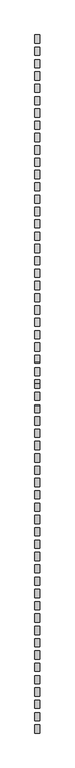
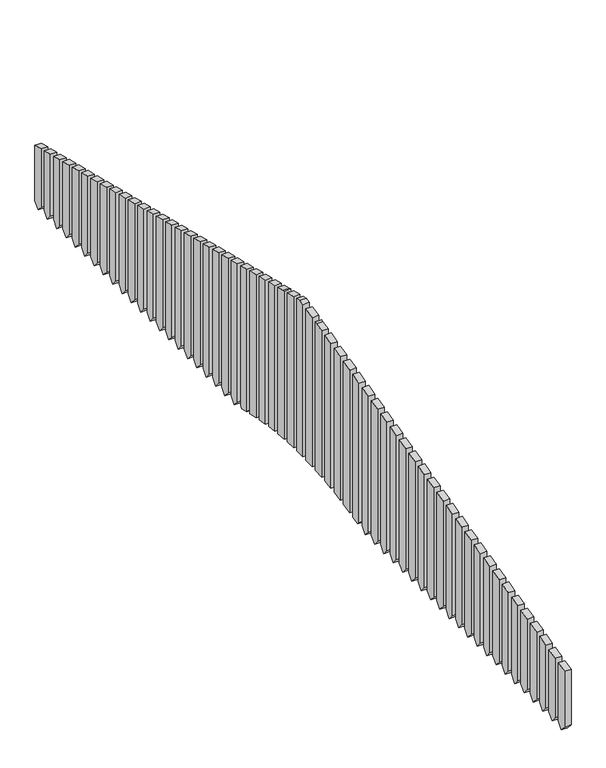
"""IFC4 building model written with IfcOpenShell, lengths in millimetres: proxy geometry, Modelos genéricos 225 : Modelos genéricos 225."""

from ifc_helpers import new_model, si_unit, point, frame, frame_2d, origin, place, context, project, spatial, polyline, circle_curve, trimmed, segment, composite_curve, outline, extrude, source, transform, mapped, element, save


def generic_models_3d0c03d0(model_context):
    return source(origin(), model_context, "Body", "SweptSolid", [
        extrude(outline(polyline([(6203.6238165, 3414.9077508), (6203.6238165, 2870.0), (6153.6238165, 2811.0), (6103.6238165, 2870.0), (6103.6238165, 3439.8405511), (6203.6238165, 3414.9077508)])), frame((-12856.5527533, 0.0, 0.0), z_axis=(1.0, 0.0, 0.0), x_axis=(0.0, 1.0, 0.0)), (0.0, 0.0, 1.0), 60.0),
        extrude(outline(polyline([(6053.6238165, 3452.3069512), (6053.6238165, 2870.0), (6003.6238165, 2811.0), (5953.6238165, 2870.0), (5953.6238165, 3477.2397515), (6053.6238165, 3452.3069512)])), frame((-12856.5527533, 0.0, 0.0), z_axis=(1.0, 0.0, 0.0), x_axis=(0.0, 1.0, 0.0)), (0.0, 0.0, 1.0), 60.0),
        extrude(outline(polyline([(5903.6238165, 3489.7061516), (5903.6238165, 2870.0), (5853.6238165, 2811.0), (5803.6238165, 2870.0), (5803.6238165, 3514.6389519), (5903.6238165, 3489.7061516)])), frame((-12856.5527533, 0.0, 0.0), z_axis=(1.0, 0.0, 0.0), x_axis=(0.0, 1.0, 0.0)), (0.0, 0.0, 1.0), 60.0),
        extrude(outline(polyline([(5753.6238165, 3527.1053521), (5753.6238165, 2870.0), (5703.6238165, 2811.0), (5653.6238165, 2870.0), (5653.6238165, 3552.0381524), (5753.6238165, 3527.1053521)])), frame((-12856.5527533, 0.0, 0.0), z_axis=(1.0, 0.0, 0.0), x_axis=(0.0, 1.0, 0.0)), (0.0, 0.0, 1.0), 60.0),
        extrude(outline(polyline([(5603.6238165, 3564.5045525), (5603.6238165, 2870.0), (5553.6238165, 2811.0), (5503.6238165, 2870.0), (5503.6238165, 3589.4373528), (5603.6238165, 3564.5045525)])), frame((-12856.5527533, 0.0, 0.0), z_axis=(1.0, 0.0, 0.0), x_axis=(0.0, 1.0, 0.0)), (0.0, 0.0, 1.0), 60.0),
        extrude(outline(polyline([(5453.6238165, 3601.9037529), (5453.6238165, 2870.0), (5403.6238165, 2811.0), (5353.6238165, 2870.0), (5353.6238165, 3626.8365532), (5453.6238165, 3601.9037529)])), frame((-12856.5527533, 0.0, 0.0), z_axis=(1.0, 0.0, 0.0), x_axis=(0.0, 1.0, 0.0)), (0.0, 0.0, 1.0), 60.0),
        extrude(outline(polyline([(5303.6238165, 3639.3029533), (5303.6238165, 2870.0), (5253.6238165, 2811.0), (5203.6238165, 2870.0), (5203.6238165, 3664.2357536), (5303.6238165, 3639.3029533)])), frame((-12856.5527533, 0.0, 0.0), z_axis=(1.0, 0.0, 0.0), x_axis=(0.0, 1.0, 0.0)), (0.0, 0.0, 1.0), 60.0),
        extrude(outline(polyline([(5153.6238165, 3676.7021538), (5153.6238165, 2870.0), (5103.6238165, 2811.0), (5053.6238165, 2870.0), (5053.6238165, 3701.6349541), (5153.6238165, 3676.7021538)])), frame((-12856.5527533, 0.0, 0.0), z_axis=(1.0, 0.0, 0.0), x_axis=(0.0, 1.0, 0.0)), (0.0, 0.0, 1.0), 60.0),
        extrude(outline(polyline([(5003.6238165, 3714.1013542), (5003.6238165, 2870.0), (4953.6238165, 2811.0), (4903.6238165, 2870.0), (4903.6238165, 3739.0341545), (5003.6238165, 3714.1013542)])), frame((-12856.5527533, 0.0, 0.0), z_axis=(1.0, 0.0, 0.0), x_axis=(0.0, 1.0, 0.0)), (0.0, 0.0, 1.0), 60.0),
        extrude(outline(polyline([(4853.6238165, 3751.5005546), (4853.6238165, 2870.0), (4803.6238165, 2811.0), (4753.6238165, 2870.0), (4753.6238165, 3776.4333549), (4853.6238165, 3751.5005546)])), frame((-12856.5527533, 0.0, 0.0), z_axis=(1.0, 0.0, 0.0), x_axis=(0.0, 1.0, 0.0)), (0.0, 0.0, 1.0), 60.0),
        extrude(outline(polyline([(4703.6238165, 3788.8997551), (4703.6238165, 2870.0), (4653.6238165, 2811.0), (4603.6238165, 2870.0), (4603.6238165, 3813.8325553), (4703.6238165, 3788.8997551)])), frame((-12856.5527533, 0.0, 0.0), z_axis=(1.0, 0.0, 0.0), x_axis=(0.0, 1.0, 0.0)), (0.0, 0.0, 1.0), 60.0),
        extrude(outline(polyline([(4553.6238165, 3826.2989555), (4553.6238165, 2870.0), (4503.6238165, 2811.0), (4453.6238165, 2870.0), (4453.6238165, 3851.2317558), (4553.6238165, 3826.2989555)])), frame((-12856.5527533, 0.0, 0.0), z_axis=(1.0, 0.0, 0.0), x_axis=(0.0, 1.0, 0.0)), (0.0, 0.0, 1.0), 60.0),
        extrude(outline(polyline([(4403.6238165, 3863.6981559), (4403.6238165, 2870.0), (4353.6238165, 2811.0), (4303.6238165, 2870.0), (4303.6238165, 3888.6309562), (4403.6238165, 3863.6981559)])), frame((-12856.5527533, 0.0, 0.0), z_axis=(1.0, 0.0, 0.0), x_axis=(0.0, 1.0, 0.0)), (0.0, 0.0, 1.0), 60.0),
        extrude(outline(polyline([(4253.6238165, 3901.0973563), (4253.6238165, 2870.0), (4203.6238165, 2811.0), (4153.6238165, 2870.0), (4153.6238165, 3926.0301566), (4253.6238165, 3901.0973563)])), frame((-12856.5527533, 0.0, 0.0), z_axis=(1.0, 0.0, 0.0), x_axis=(0.0, 1.0, 0.0)), (0.0, 0.0, 1.0), 60.0),
        extrude(outline(polyline([(4103.6238165, 3938.4965568), (4103.6238165, 2870.0), (4053.6238165, 2811.0), (4003.6238165, 2870.0), (4003.6238165, 3963.429357), (4103.6238165, 3938.4965568)])), frame((-12856.5527533, 0.0, 0.0), z_axis=(1.0, 0.0, 0.0), x_axis=(0.0, 1.0, 0.0)), (0.0, 0.0, 1.0), 60.0),
        extrude(outline(polyline([(3953.6238165, 3975.8957572), (3953.6238165, 2870.0), (3903.6238165, 2811.0), (3853.6238165, 2870.0), (3853.6238165, 4000.8285575), (3953.6238165, 3975.8957572)])), frame((-12856.5527533, 0.0, 0.0), z_axis=(1.0, 0.0, 0.0), x_axis=(0.0, 1.0, 0.0)), (0.0, 0.0, 1.0), 60.0),
        extrude(outline(polyline([(3803.6238165, 4013.2949576), (3803.6238165, 2870.0), (3753.6238165, 2811.0), (3703.6238165, 2870.0), (3703.6238165, 4038.2277579), (3803.6238165, 4013.2949576)])), frame((-12856.5527533, 0.0, 0.0), z_axis=(1.0, 0.0, 0.0), x_axis=(0.0, 1.0, 0.0)), (0.0, 0.0, 1.0), 60.0),
        extrude(outline(polyline([(3653.6238165, 4050.694158), (3653.6238165, 2870.0), (3603.6238165, 2811.0), (3553.6238165, 2870.0), (3553.6238165, 4075.6269583), (3653.6238165, 4050.694158)])), frame((-12856.5527533, 0.0, 0.0), z_axis=(1.0, 0.0, 0.0), x_axis=(0.0, 1.0, 0.0)), (0.0, 0.0, 1.0), 60.0),
        extrude(outline(polyline([(3503.6238165, 4088.0933585), (3503.6238165, 2870.0), (3453.6238165, 2811.0), (3403.6238165, 2870.0), (3403.6238165, 4113.0261587), (3503.6238165, 4088.0933585)])), frame((-12856.5527533, 0.0, 0.0), z_axis=(1.0, 0.0, 0.0), x_axis=(0.0, 1.0, 0.0)), (0.0, 0.0, 1.0), 60.0),
        extrude(outline(polyline([(3353.6238165, 4125.4925589), (3353.6238165, 2870.0), (3303.6238165, 2811.0), (3253.6238165, 2870.0), (3253.6238165, 4150.4253592), (3353.6238165, 4125.4925589)])), frame((-12856.5527533, 0.0, 0.0), z_axis=(1.0, 0.0, 0.0), x_axis=(0.0, 1.0, 0.0)), (0.0, 0.0, 1.0), 60.0),
        extrude(outline(polyline([(3203.6238165, 4162.8917593), (3203.6238165, 2870.0), (3153.6238165, 2811.0), (3103.6238165, 2870.0), (3103.6238165, 4187.8245596), (3203.6238165, 4162.8917593)])), frame((-12856.5527533, 0.0, 0.0), z_axis=(1.0, 0.0, 0.0), x_axis=(0.0, 1.0, 0.0)), (0.0, 0.0, 1.0), 60.0),
        extrude(outline(polyline([(3053.6238165, 4200.2909597), (3053.6238165, 2870.0), (3003.6238165, 2811.0), (2953.6238165, 2870.0), (2953.6238165, 4225.22376), (3053.6238165, 4200.2909597)])), frame((-12856.5527533, 0.0, 0.0), z_axis=(1.0, 0.0, 0.0), x_axis=(0.0, 1.0, 0.0)), (0.0, 0.0, 1.0), 60.0),
        extrude(outline(composite_curve([segment(polyline([(2903.6238165, 4237.6901602), (2903.6238165, 2870.0), (2883.2729291, 2845.9859529)]), True, "CONTINUOUS"), segment(trimmed(circle_curve(frame_2d((1953.6238165, -576.4811321)), 3546.4811321), [point((2883.2729291, 2845.9859529))], [point((2807.2352676, 2865.7384877))], True, "CARTESIAN"), True, "CONTINUOUS"), segment(polyline([(2807.2352676, 2865.7384877), (2803.6238165, 2870.0), (2803.6238165, 4262.6229605), (2903.6238165, 4237.6901602)]), True, "CONTINUOUS")], self_intersect=False)), frame((-12856.5527533, 0.0, 0.0), z_axis=(1.0, 0.0, 0.0), x_axis=(0.0, 1.0, 0.0)), (0.0, 0.0, 1.0), 60.0),
        extrude(outline(composite_curve([segment(polyline([(2753.6238165, 4275.0893606), (2753.6238165, 2878.591721)]), True, "CONTINUOUS"), segment(trimmed(circle_curve(frame_2d((1953.6238165, -576.4811321)), 3546.4811321), [point((2753.6238165, 2878.591721))], [point((2653.6238165, 2900.2311684))], True, "CARTESIAN"), True, "CONTINUOUS"), segment(polyline([(2653.6238165, 2900.2311684), (2653.6238165, 4300.0221609), (2753.6238165, 4275.0893606)]), True, "CONTINUOUS")], self_intersect=False)), frame((-12856.5527533, 0.0, 0.0), z_axis=(1.0, 0.0, 0.0), x_axis=(0.0, 1.0, 0.0)), (0.0, 0.0, 1.0), 60.0),
        extrude(outline(composite_curve([segment(polyline([(2603.6238165, 4312.488561), (2603.6238165, 2909.9251007)]), True, "CONTINUOUS"), segment(trimmed(circle_curve(frame_2d((1953.6238165, -576.4811321)), 3546.4811321), [point((2603.6238165, 2909.9251007))], [point((2503.6238165, 2927.0925321))], True, "CARTESIAN"), True, "CONTINUOUS"), segment(polyline([(2503.6238165, 2927.0925321), (2503.6238165, 4337.4213613), (2603.6238165, 4312.488561)]), True, "CONTINUOUS")], self_intersect=False)), frame((-12856.5527533, 0.0, 0.0), z_axis=(1.0, 0.0, 0.0), x_axis=(0.0, 1.0, 0.0)), (0.0, 0.0, 1.0), 60.0),
        extrude(outline(composite_curve([segment(polyline([(2453.6238165, 4349.8877615), (2453.6238165, 2934.576888)]), True, "CONTINUOUS"), segment(trimmed(circle_curve(frame_2d((1953.6238165, -576.4811321)), 3546.4811321), [point((2453.6238165, 2934.576888))], [point((2353.6238165, 2947.3702297))], True, "CARTESIAN"), True, "CONTINUOUS"), segment(polyline([(2353.6238165, 2947.3702297), (2353.6238165, 4374.8205617), (2453.6238165, 4349.8877615)]), True, "CONTINUOUS")], self_intersect=False)), frame((-12856.5527533, 0.0, 0.0), z_axis=(1.0, 0.0, 0.0), x_axis=(0.0, 1.0, 0.0)), (0.0, 0.0, 1.0), 60.0),
        extrude(outline(composite_curve([segment(polyline([(2303.6238165, 4387.2869619), (2303.6238165, 2952.6871014)]), True, "CONTINUOUS"), segment(trimmed(circle_curve(frame_2d((1953.6238165, -576.4811321)), 3546.4811321), [point((2303.6238165, 2952.6871014))], [point((2203.6238165, 2961.177475))], True, "CARTESIAN"), True, "CONTINUOUS"), segment(polyline([(2203.6238165, 2961.177475), (2203.6238165, 4412.2197622), (2222.9004531, 4407.4135568), (2303.6238165, 4387.2869619)]), True, "CONTINUOUS")], self_intersect=False)), frame((-12856.5527533, 0.0, 0.0), z_axis=(1.0, 0.0, 0.0), x_axis=(0.0, 1.0, 0.0)), (0.0, 0.0, 1.0), 60.0),
        extrude(outline(composite_curve([segment(polyline([(2153.6238165, 4424.6861623), (2153.6238165, 2964.3561164)]), True, "CONTINUOUS"), segment(trimmed(circle_curve(frame_2d((1953.6238165, -576.4811321)), 3546.4811321), [point((2153.6238165, 2964.3561164))], [point((2053.6238165, 2968.5898715))], True, "CARTESIAN"), True, "CONTINUOUS"), segment(polyline([(2053.6238165, 2968.5898715), (2053.6238165, 4449.6189626), (2153.6238165, 4424.6861623)]), True, "CONTINUOUS")], self_intersect=False)), frame((-12856.5527533, 0.0, 0.0), z_axis=(1.0, 0.0, 0.0), x_axis=(0.0, 1.0, 0.0)), (0.0, 0.0, 1.0), 60.0),
        extrude(outline(composite_curve([segment(polyline([(1903.6238165, 2969.6475204), (1903.6238165, 4462.0853627), (1953.6238165, 4474.5517629), (2003.6238165, 4462.0853627), (2003.6238165, 2969.6475204)]), True, "CONTINUOUS"), segment(trimmed(circle_curve(frame_2d((1953.6238165, -576.4811321)), 3546.4811321), [point((2003.6238165, 2969.6475204))], [point((1903.6238165, 2969.6475204))], True, "CARTESIAN"), True, "CONTINUOUS")], self_intersect=False)), frame((-12856.5527533, 0.0, 0.0), z_axis=(1.0, 0.0, 0.0), x_axis=(0.0, 1.0, 0.0)), (0.0, 0.0, 1.0), 60.0),
        extrude(outline(polyline([(-2296.3761835, 3414.9077508), (-2196.3761835, 3439.8405511), (-2196.3761835, 2870.0), (-2246.3761835, 2811.0), (-2296.3761835, 2870.0), (-2296.3761835, 3414.9077508)])), frame((-12856.5527533, 0.0, 0.0), z_axis=(1.0, 0.0, 0.0), x_axis=(0.0, 1.0, 0.0)), (0.0, 0.0, 1.0), 60.0),
        extrude(outline(polyline([(-2146.3761835, 3452.3069512), (-2046.3761835, 3477.2397515), (-2046.3761835, 2870.0), (-2096.3761835, 2811.0), (-2146.3761835, 2870.0), (-2146.3761835, 3452.3069512)])), frame((-12856.5527533, 0.0, 0.0), z_axis=(1.0, 0.0, 0.0), x_axis=(0.0, 1.0, 0.0)), (0.0, 0.0, 1.0), 60.0),
        extrude(outline(polyline([(-1996.3761835, 3489.7061516), (-1896.3761835, 3514.6389519), (-1896.3761835, 2870.0), (-1946.3761835, 2811.0), (-1996.3761835, 2870.0), (-1996.3761835, 3489.7061516)])), frame((-12856.5527533, 0.0, 0.0), z_axis=(1.0, 0.0, 0.0), x_axis=(0.0, 1.0, 0.0)), (0.0, 0.0, 1.0), 60.0),
        extrude(outline(polyline([(-1846.3761835, 3527.1053521), (-1746.3761835, 3552.0381524), (-1746.3761835, 2870.0), (-1796.3761835, 2811.0), (-1846.3761835, 2870.0), (-1846.3761835, 3527.1053521)])), frame((-12856.5527533, 0.0, 0.0), z_axis=(1.0, 0.0, 0.0), x_axis=(0.0, 1.0, 0.0)), (0.0, 0.0, 1.0), 60.0),
        extrude(outline(polyline([(-1696.3761835, 3564.5045525), (-1596.3761835, 3589.4373528), (-1596.3761835, 2870.0), (-1646.3761835, 2811.0), (-1696.3761835, 2870.0), (-1696.3761835, 3564.5045525)])), frame((-12856.5527533, 0.0, 0.0), z_axis=(1.0, 0.0, 0.0), x_axis=(0.0, 1.0, 0.0)), (0.0, 0.0, 1.0), 60.0),
        extrude(outline(polyline([(-1546.3761835, 3601.9037529), (-1446.3761835, 3626.8365532), (-1446.3761835, 2870.0), (-1496.3761835, 2811.0), (-1546.3761835, 2870.0), (-1546.3761835, 3601.9037529)])), frame((-12856.5527533, 0.0, 0.0), z_axis=(1.0, 0.0, 0.0), x_axis=(0.0, 1.0, 0.0)), (0.0, 0.0, 1.0), 60.0),
        extrude(outline(polyline([(-1396.3761835, 3639.3029533), (-1296.3761835, 3664.2357536), (-1296.3761835, 2870.0), (-1346.3761835, 2811.0), (-1396.3761835, 2870.0), (-1396.3761835, 3639.3029533)])), frame((-12856.5527533, 0.0, 0.0), z_axis=(1.0, 0.0, 0.0), x_axis=(0.0, 1.0, 0.0)), (0.0, 0.0, 1.0), 60.0),
        extrude(outline(polyline([(-1246.3761835, 3676.7021538), (-1146.3761835, 3701.6349541), (-1146.3761835, 2870.0), (-1196.3761835, 2811.0), (-1246.3761835, 2870.0), (-1246.3761835, 3676.7021538)])), frame((-12856.5527533, 0.0, 0.0), z_axis=(1.0, 0.0, 0.0), x_axis=(0.0, 1.0, 0.0)), (0.0, 0.0, 1.0), 60.0),
        extrude(outline(polyline([(-1096.3761835, 3714.1013542), (-996.3761835, 3739.0341545), (-996.3761835, 2870.0), (-1046.3761835, 2811.0), (-1096.3761835, 2870.0), (-1096.3761835, 3714.1013542)])), frame((-12856.5527533, 0.0, 0.0), z_axis=(1.0, 0.0, 0.0), x_axis=(0.0, 1.0, 0.0)), (0.0, 0.0, 1.0), 60.0),
        extrude(outline(polyline([(-946.3761835, 3751.5005546), (-846.3761835, 3776.4333549), (-846.3761835, 2870.0), (-896.3761835, 2811.0), (-946.3761835, 2870.0), (-946.3761835, 3751.5005546)])), frame((-12856.5527533, 0.0, 0.0), z_axis=(1.0, 0.0, 0.0), x_axis=(0.0, 1.0, 0.0)), (0.0, 0.0, 1.0), 60.0),
        extrude(outline(polyline([(-796.3761835, 3788.8997551), (-696.3761835, 3813.8325553), (-696.3761835, 2870.0), (-746.3761835, 2811.0), (-796.3761835, 2870.0), (-796.3761835, 3788.8997551)])), frame((-12856.5527533, 0.0, 0.0), z_axis=(1.0, 0.0, 0.0), x_axis=(0.0, 1.0, 0.0)), (0.0, 0.0, 1.0), 60.0),
        extrude(outline(polyline([(-646.3761835, 3826.2989555), (-546.3761835, 3851.2317558), (-546.3761835, 2870.0), (-596.3761835, 2811.0), (-646.3761835, 2870.0), (-646.3761835, 3826.2989555)])), frame((-12856.5527533, 0.0, 0.0), z_axis=(1.0, 0.0, 0.0), x_axis=(0.0, 1.0, 0.0)), (0.0, 0.0, 1.0), 60.0),
        extrude(outline(polyline([(-496.3761835, 3863.6981559), (-396.3761835, 3888.6309562), (-396.3761835, 2870.0), (-446.3761835, 2811.0), (-496.3761835, 2870.0), (-496.3761835, 3863.6981559)])), frame((-12856.5527533, 0.0, 0.0), z_axis=(1.0, 0.0, 0.0), x_axis=(0.0, 1.0, 0.0)), (0.0, 0.0, 1.0), 60.0),
        extrude(outline(polyline([(-346.3761835, 3901.0973563), (-246.3761835, 3926.0301566), (-246.3761835, 2870.0), (-296.3761835, 2811.0), (-346.3761835, 2870.0), (-346.3761835, 3901.0973563)])), frame((-12856.5527533, 0.0, 0.0), z_axis=(1.0, 0.0, 0.0), x_axis=(0.0, 1.0, 0.0)), (0.0, 0.0, 1.0), 60.0),
        extrude(outline(polyline([(-196.3761835, 3938.4965568), (-96.3761835, 3963.429357), (-96.3761835, 2870.0), (-146.3761835, 2811.0), (-196.3761835, 2870.0), (-196.3761835, 3938.4965568)])), frame((-12856.5527533, 0.0, 0.0), z_axis=(1.0, 0.0, 0.0), x_axis=(0.0, 1.0, 0.0)), (0.0, 0.0, 1.0), 60.0),
        extrude(outline(polyline([(-46.3761835, 3975.8957572), (53.6238165, 4000.8285575), (53.6238165, 2870.0), (3.6238165, 2811.0), (-46.3761835, 2870.0), (-46.3761835, 3975.8957572)])), frame((-12856.5527533, 0.0, 0.0), z_axis=(1.0, 0.0, 0.0), x_axis=(0.0, 1.0, 0.0)), (0.0, 0.0, 1.0), 60.0),
        extrude(outline(polyline([(103.6238165, 4013.2949576), (203.6238165, 4038.2277579), (203.6238165, 2870.0), (153.6238165, 2811.0), (103.6238165, 2870.0), (103.6238165, 4013.2949576)])), frame((-12856.5527533, 0.0, 0.0), z_axis=(1.0, 0.0, 0.0), x_axis=(0.0, 1.0, 0.0)), (0.0, 0.0, 1.0), 60.0),
        extrude(outline(polyline([(253.6238165, 4050.694158), (353.6238165, 4075.6269583), (353.6238165, 2870.0), (303.6238165, 2811.0), (253.6238165, 2870.0), (253.6238165, 4050.694158)])), frame((-12856.5527533, 0.0, 0.0), z_axis=(1.0, 0.0, 0.0), x_axis=(0.0, 1.0, 0.0)), (0.0, 0.0, 1.0), 60.0),
        extrude(outline(polyline([(403.6238165, 4088.0933585), (503.6238165, 4113.0261587), (503.6238165, 2870.0), (453.6238165, 2811.0), (403.6238165, 2870.0), (403.6238165, 4088.0933585)])), frame((-12856.5527533, 0.0, 0.0), z_axis=(1.0, 0.0, 0.0), x_axis=(0.0, 1.0, 0.0)), (0.0, 0.0, 1.0), 60.0),
        extrude(outline(polyline([(553.6238165, 4125.4925589), (653.6238165, 4150.4253592), (653.6238165, 2870.0), (603.6238165, 2811.0), (553.6238165, 2870.0), (553.6238165, 4125.4925589)])), frame((-12856.5527533, 0.0, 0.0), z_axis=(1.0, 0.0, 0.0), x_axis=(0.0, 1.0, 0.0)), (0.0, 0.0, 1.0), 60.0),
        extrude(outline(polyline([(703.6238165, 4162.8917593), (803.6238165, 4187.8245596), (803.6238165, 2870.0), (753.6238165, 2811.0), (703.6238165, 2870.0), (703.6238165, 4162.8917593)])), frame((-12856.5527533, 0.0, 0.0), z_axis=(1.0, 0.0, 0.0), x_axis=(0.0, 1.0, 0.0)), (0.0, 0.0, 1.0), 60.0),
        extrude(outline(polyline([(853.6238165, 4200.2909597), (953.6238165, 4225.22376), (953.6238165, 2870.0), (903.6238165, 2811.0), (853.6238165, 2870.0), (853.6238165, 4200.2909597)])), frame((-12856.5527533, 0.0, 0.0), z_axis=(1.0, 0.0, 0.0), x_axis=(0.0, 1.0, 0.0)), (0.0, 0.0, 1.0), 60.0),
        extrude(outline(composite_curve([segment(polyline([(1003.6238165, 4237.6901602), (1103.6238165, 4262.6229605), (1103.6238165, 2870.0), (1100.0123654, 2865.7384877)]), True, "CONTINUOUS"), segment(trimmed(circle_curve(frame_2d((1953.6238165, -576.4811321)), 3546.4811321), [point((1100.0123654, 2865.7384877))], [point((1023.9747039, 2845.9859529))], True, "CARTESIAN"), True, "CONTINUOUS"), segment(polyline([(1023.9747039, 2845.9859529), (1003.6238165, 2870.0), (1003.6238165, 4237.6901602)]), True, "CONTINUOUS")], self_intersect=False)), frame((-12856.5527533, 0.0, 0.0), z_axis=(1.0, 0.0, 0.0), x_axis=(0.0, 1.0, 0.0)), (0.0, 0.0, 1.0), 60.0),
        extrude(outline(composite_curve([segment(polyline([(1153.6238165, 4275.0893606), (1253.6238165, 4300.0221609), (1253.6238165, 2900.2311684)]), True, "CONTINUOUS"), segment(trimmed(circle_curve(frame_2d((1953.6238165, -576.4811321)), 3546.4811321), [point((1253.6238165, 2900.2311684))], [point((1153.6238165, 2878.591721))], True, "CARTESIAN"), True, "CONTINUOUS"), segment(polyline([(1153.6238165, 2878.591721), (1153.6238165, 4275.0893606)]), True, "CONTINUOUS")], self_intersect=False)), frame((-12856.5527533, 0.0, 0.0), z_axis=(1.0, 0.0, 0.0), x_axis=(0.0, 1.0, 0.0)), (0.0, 0.0, 1.0), 60.0),
        extrude(outline(composite_curve([segment(polyline([(1303.6238165, 4312.488561), (1403.6238165, 4337.4213613), (1403.6238165, 2927.0925321)]), True, "CONTINUOUS"), segment(trimmed(circle_curve(frame_2d((1953.6238165, -576.4811321)), 3546.4811321), [point((1403.6238165, 2927.0925321))], [point((1303.6238165, 2909.9251007))], True, "CARTESIAN"), True, "CONTINUOUS"), segment(polyline([(1303.6238165, 2909.9251007), (1303.6238165, 4312.488561)]), True, "CONTINUOUS")], self_intersect=False)), frame((-12856.5527533, 0.0, 0.0), z_axis=(1.0, 0.0, 0.0), x_axis=(0.0, 1.0, 0.0)), (0.0, 0.0, 1.0), 60.0),
        extrude(outline(composite_curve([segment(polyline([(1453.6238165, 4349.8877615), (1553.6238165, 4374.8205617), (1553.6238165, 2947.3702297)]), True, "CONTINUOUS"), segment(trimmed(circle_curve(frame_2d((1953.6238165, -576.4811321)), 3546.4811321), [point((1553.6238165, 2947.3702297))], [point((1453.6238165, 2934.576888))], True, "CARTESIAN"), True, "CONTINUOUS"), segment(polyline([(1453.6238165, 2934.576888), (1453.6238165, 4349.8877615)]), True, "CONTINUOUS")], self_intersect=False)), frame((-12856.5527533, 0.0, 0.0), z_axis=(1.0, 0.0, 0.0), x_axis=(0.0, 1.0, 0.0)), (0.0, 0.0, 1.0), 60.0),
        extrude(outline(composite_curve([segment(polyline([(1603.6238165, 4387.2869619), (1684.3471798, 4407.4135568), (1703.6238165, 4412.2197622), (1703.6238165, 2961.177475)]), True, "CONTINUOUS"), segment(trimmed(circle_curve(frame_2d((1953.6238165, -576.4811321)), 3546.4811321), [point((1703.6238165, 2961.177475))], [point((1603.6238165, 2952.6871014))], True, "CARTESIAN"), True, "CONTINUOUS"), segment(polyline([(1603.6238165, 2952.6871014), (1603.6238165, 4387.2869619)]), True, "CONTINUOUS")], self_intersect=False)), frame((-12856.5527533, 0.0, 0.0), z_axis=(1.0, 0.0, 0.0), x_axis=(0.0, 1.0, 0.0)), (0.0, 0.0, 1.0), 60.0),
        extrude(outline(composite_curve([segment(polyline([(1753.6238165, 4424.6861623), (1853.6238165, 4449.6189626), (1853.6238165, 2968.5898715)]), True, "CONTINUOUS"), segment(trimmed(circle_curve(frame_2d((1953.6238165, -576.4811321)), 3546.4811321), [point((1853.6238165, 2968.5898715))], [point((1753.6238165, 2964.3561164))], True, "CARTESIAN"), True, "CONTINUOUS"), segment(polyline([(1753.6238165, 2964.3561164), (1753.6238165, 4424.6861623)]), True, "CONTINUOUS")], self_intersect=False)), frame((-12856.5527533, 0.0, 0.0), z_axis=(1.0, 0.0, 0.0), x_axis=(0.0, 1.0, 0.0)), (0.0, 0.0, 1.0), 60.0),
    ])


if __name__ == "__main__":
    model = new_model("IFC4")
    model_context = context("Model", 3, world=origin())
    ifc_project = project(units=[si_unit("LENGTHUNIT", "METRE", prefix="MILLI")], contexts=[model_context])
    site = spatial("IfcSite", under=ifc_project)
    building = spatial("IfcBuilding", under=site)
    placement = place(None, origin())
    generic_models_shape = generic_models_3d0c03d0(model_context)
    element("IfcBuildingElementProxy", 1, Name="Modelos genéricos 225 : Modelos genéricos 225", ObjectType="Modelos genéricos 225 : Modelos genéricos 225", at=placement, inside=building, context=model_context, shape_type="MappedRepresentation", body=[
        mapped(generic_models_shape, transform((0.0, 0.0, 0.0), x_axis=(1.0, 0.0, 0.0), y_axis=(0.0, 1.0, 0.0), z_axis=(0.0, 0.0, 1.0))),
    ])
    save(model, "model.ifc")
